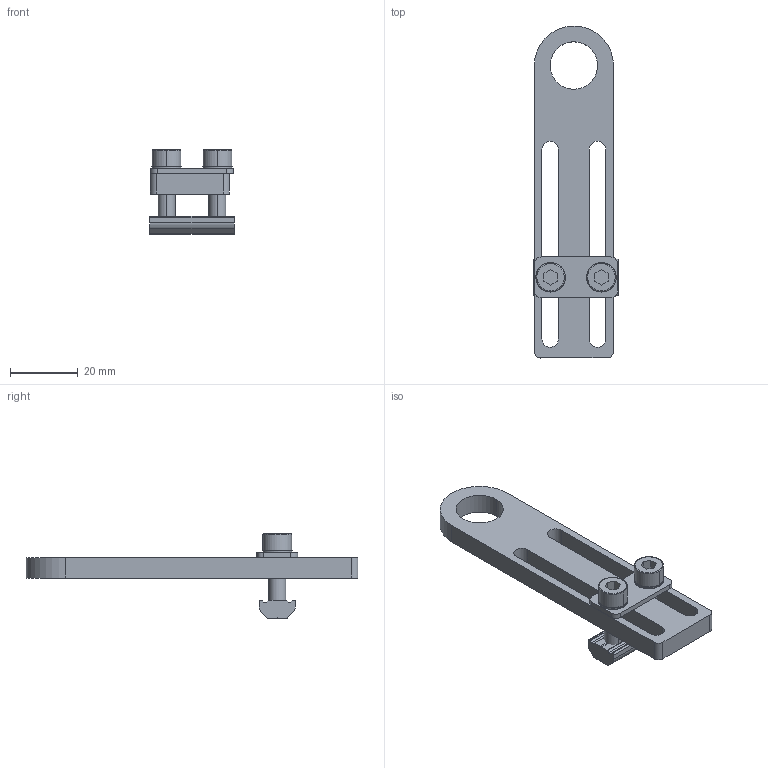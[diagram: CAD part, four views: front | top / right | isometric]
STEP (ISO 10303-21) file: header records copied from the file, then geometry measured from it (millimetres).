
FILE_DESCRIPTION (( 'STEP AP214' ), '1' );
FILE_NAME ('SMBE5-M1660.STEP', '2019-11-06T01:39:23', ( '微软用户' ), ( '微软中国' ), 'SwSTEP 2.0', 'SolidWorks 2016', '' );
FILE_SCHEMA (( 'AUTOMOTIVE_DESIGN' ));
Length unit declared in the file: millimetre
Products named in the file (1): SMBE5-M1660
Bounding box: 25 x 98 x 25 mm (x, y, z)
Volume: 11697 mm3; surface area: 9172.1 mm2
Topology: 7 solids, 7 shells, 510 faces, 1480 edges, 980 vertices
Faces by surface type: plane 447, cylinder 55, cone 4, bspline 4
Entity records: 22980 total; most frequent: CARTESIAN_POINT 3433, ORIENTED_EDGE 2960, DIRECTION 2932, EDGE_CURVE 1480, AXIS2_PLACEMENT_3D 985, VERTEX_POINT 980, VECTOR 962, LINE 962
